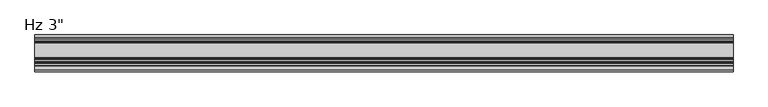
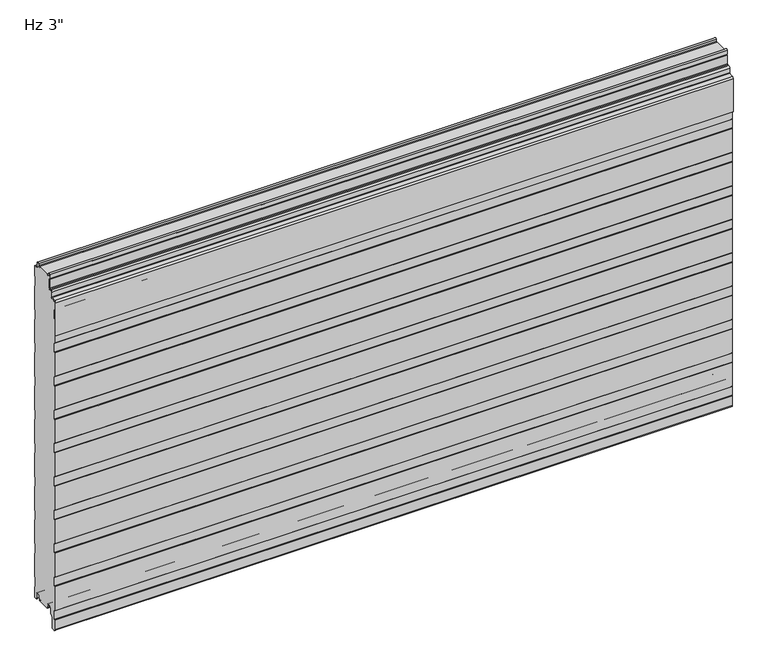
"""IFC4 building model written with IfcOpenShell, lengths in millimetres: plate geometry."""

from ifc_helpers import new_model, si_unit, point, frame, frame_2d, origin, place, context, project, spatial, polyline, circle_curve, trimmed, segment, composite_curve, outline, extrude, source, transform, mapped, element, save
from ifc_brep_helpers import plane_surface, cylinder_surface, revolved_surface, advanced_brep


def plate_fe4ee071(model_context):
    return source(origin(), model_context, "Body", "SolidModel", [
        advanced_brep(
        [(730.0, -55.1008679, 735.9534183), (730.0, -55.1008679, 754.6986183), (730.0, -56.6248679, 754.6986183), (730.0, -56.6248679, 735.9534183), (730.0, -58.1488679, 734.4294183), (730.0, -61.2476679, 734.4294183), (730.0, -64.7020679, 730.9750183), (730.0, -64.7020679, 719.762461), (730.0, -65.3976552, 719.0033606), (730.0, -74.9416507, 717.808533), (730.0, -77.724, 714.7721316), (730.0, -77.7360323, 639.2048183), (730.0, -76.2, 639.2048183), (730.0, -76.2, 714.7721316), (730.0, -74.8088254, 716.2903323), (730.0, -65.2648299, 717.4851599), (730.0, -63.1780679, 719.762461), (730.0, -63.1780679, 730.9750183), (730.0, -61.2476679, 732.9054183), (730.0, -58.1488679, 732.9054183), (-730.0, -55.1008679, 735.9534183), (-730.0, -58.1488679, 732.9054183), (-730.0, -61.2476679, 732.9054183), (-730.0, -63.1780679, 730.9750183), (-730.0, -63.1780679, 719.762461), (-730.0, -65.2648299, 717.4851599), (-730.0, -74.8088254, 716.2903323), (-730.0, -76.2, 714.7721316), (-730.0, -76.2, 639.2048183), (-730.0, -77.7360323, 639.2048183), (-730.0, -77.7360323, 714.7721316), (-730.0, -74.9416507, 717.808533), (-730.0, -65.3976552, 719.0033606), (-730.0, -64.7020679, 719.762461), (-730.0, -64.7020679, 730.9750183), (-730.0, -61.2476679, 734.4294183), (-730.0, -58.1488679, 734.4294183), (-730.0, -56.6248679, 735.9534183), (-730.0, -56.6248679, 754.6986183), (-730.0, -55.1008679, 754.6986183)],
        [
            (0, 1),
            (1, 2),
            (2, 3),
            (3, 4, circle_curve(frame((730.0, -58.1488679, 735.9534183), z_axis=(-1.0, 0.0, 0.0), x_axis=(0.0, 1.0, 0.0)), 1.524)),
            (4, 5),
            (5, 6, circle_curve(frame((730.0, -61.2476679, 730.9750183), z_axis=(1.0, 0.0, 0.0), x_axis=(0.0, 1.0, 0.0)), 3.4544)),
            (6, 7),
            (7, 8, circle_curve(frame((730.0, -65.4640679, 719.762461), z_axis=(-1.0, 0.0, 0.0), x_axis=(0.0, 1.0, 0.0)), 0.762)),
            (8, 9),
            (9, 10, circle_curve(frame((730.0, -74.676, 714.7721316), z_axis=(1.0, 0.0, 0.0), x_axis=(0.0, 1.0, 0.0)), 3.048)),
            (10, 11),
            (11, 12),
            (12, 13),
            (13, 14, circle_curve(frame((730.0, -74.676, 714.7721316), z_axis=(-1.0, 0.0, 0.0), x_axis=(0.0, 1.0, 0.0)), 1.524)),
            (14, 15),
            (15, 16, circle_curve(frame((730.0, -65.4640679, 719.762461), z_axis=(1.0, 0.0, 0.0), x_axis=(0.0, 1.0, 0.0)), 2.286)),
            (16, 17),
            (17, 18, circle_curve(frame((730.0, -61.2476679, 730.9750183), z_axis=(-1.0, 0.0, 0.0), x_axis=(0.0, 1.0, 0.0)), 1.9304)),
            (18, 19),
            (19, 0, circle_curve(frame((730.0, -58.1488679, 735.9534183), z_axis=(1.0, 0.0, 0.0), x_axis=(0.0, 1.0, 0.0)), 3.048)),
            (20, 21, circle_curve(frame((-730.0, -58.1488679, 735.9534183), z_axis=(-1.0, 0.0, 0.0), x_axis=(0.0, 1.0, 0.0)), 3.048)),
            (21, 22),
            (22, 23, circle_curve(frame((-730.0, -61.2476679, 730.9750183), z_axis=(1.0, 0.0, 0.0), x_axis=(0.0, 1.0, 0.0)), 1.9304)),
            (23, 24),
            (24, 25, circle_curve(frame((-730.0, -65.4640679, 719.762461), z_axis=(-1.0, 0.0, 0.0), x_axis=(0.0, 1.0, 0.0)), 2.286)),
            (25, 26),
            (26, 27, circle_curve(frame((-730.0, -74.676, 714.7721316), z_axis=(1.0, 0.0, 0.0), x_axis=(0.0, 1.0, 0.0)), 1.524)),
            (27, 28),
            (28, 29),
            (29, 30),
            (30, 31, circle_curve(frame((-730.0, -74.676, 714.7721316), z_axis=(-1.0, 0.0, 0.0), x_axis=(0.0, 1.0, 0.0)), 3.048)),
            (31, 32),
            (32, 33, circle_curve(frame((-730.0, -65.4640679, 719.762461), z_axis=(1.0, 0.0, 0.0), x_axis=(0.0, 1.0, 0.0)), 0.762)),
            (33, 34),
            (34, 35, circle_curve(frame((-730.0, -61.2476679, 730.9750183), z_axis=(-1.0, 0.0, 0.0), x_axis=(0.0, 1.0, 0.0)), 3.4544)),
            (35, 36),
            (36, 37, circle_curve(frame((-730.0, -58.1488679, 735.9534183), z_axis=(1.0, 0.0, 0.0), x_axis=(0.0, 1.0, 0.0)), 1.524)),
            (37, 38),
            (38, 39),
            (39, 20),
            (2, 38),
            (37, 3),
            (15, 25),
            (24, 16),
            (7, 33),
            (32, 8),
            (5, 35),
            (34, 6),
            (1, 39),
            (36, 4),
            (9, 31),
            (30, 10),
            (13, 27),
            (26, 14),
            (0, 20),
            (12, 28),
            (29, 11),
            (23, 17),
            (18, 22),
            (21, 19),
        ],
        [
            plane_surface(frame((730.0, -76.2, 754.6986183), z_axis=(1.0, 0.0, 0.0), x_axis=(0.0, 0.0, -1.0))),
            plane_surface(frame((-730.0, -76.2, 754.6986183), z_axis=(-1.0, 0.0, 0.0), x_axis=(0.0, 0.0, -1.0))),
            plane_surface(frame((730.0, -56.6248679, 735.9534183), z_axis=(0.0, -1.0, 0.0), x_axis=(-1.0, 0.0, 0.0))),
            cylinder_surface(frame((730.0, -65.4640679, 719.762461), z_axis=(1.0, 0.0, 0.0), x_axis=(0.0, 1.0, 0.0)), 2.286),
            revolved_surface(polyline([(-730.0, -64.7020679, 719.762461), (730.0, -64.7020679, 719.762461)]), (730.0, -65.4640679, 719.762461), (-1.0, 0.0, 0.0)),
            cylinder_surface(frame((730.0, -61.2476679, 730.9750183), z_axis=(1.0, 0.0, 0.0), x_axis=(0.0, 1.0, 0.0)), 3.4544),
            plane_surface(frame((730.0, -56.6248679, 754.6986183), z_axis=(0.0, 0.0, 1.0), x_axis=(-1.0, 0.0, 0.0))),
            revolved_surface(polyline([(-730.0, -56.6248679, 735.9534183), (730.0, -56.6248679, 735.9534183)]), (730.0, -58.1488679, 735.9534183), (-1.0, 0.0, 0.0)),
            cylinder_surface(frame((730.0, -74.676, 714.7721316), z_axis=(1.0, 0.0, 0.0), x_axis=(0.0, 1.0, 0.0)), 3.048),
            revolved_surface(polyline([(-730.0, -73.152, 714.7721316), (730.0, -73.152, 714.7721316)]), (730.0, -74.676, 714.7721316), (-1.0, 0.0, 0.0)),
            plane_surface(frame((730.0, -55.1008679, 754.6986183), z_axis=(0.0, 1.0, 0.0), x_axis=(-1.0, 0.0, 0.0))),
            plane_surface(frame((730.0, -65.2648299, 717.4851599), z_axis=(0.0, 0.12422187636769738, -0.9922544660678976), x_axis=(-1.0, 0.0, 0.0))),
            plane_surface(frame((730.0, -76.2, 714.7721316), z_axis=(0.0, 1.0, 0.0), x_axis=(-1.0, 0.0, 0.0))),
            plane_surface(frame((730.0, -74.9416507, 717.808533), z_axis=(0.0, -0.12422187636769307, 0.9922544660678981), x_axis=(-1.0, 0.0, 0.0))),
            plane_surface(frame((730.0, -61.2476679, 734.4294183), z_axis=(0.0, 0.0, 1.0), x_axis=(-1.0, 0.0, 0.0))),
            plane_surface(frame((730.0, -77.7360323, 639.2048183), z_axis=(0.0, -1.0, 0.0), x_axis=(-1.0, 0.0, 0.0))),
            plane_surface(frame((730.0, -76.2, 639.2048183), z_axis=(0.0, 0.0, -1.0), x_axis=(-1.0, 0.0, 0.0))),
            plane_surface(frame((730.0, -63.1780679, 730.9750183), z_axis=(0.0, 1.0, 0.0), x_axis=(-1.0, 0.0, 0.0))),
            plane_surface(frame((730.0, -58.1488679, 732.9054183), z_axis=(0.0, 0.0, -1.0), x_axis=(-1.0, 0.0, 0.0))),
            plane_surface(frame((730.0, -64.7020679, 719.762461), z_axis=(0.0, -1.0, 0.0), x_axis=(-1.0, 0.0, 0.0))),
            revolved_surface(polyline([(-730.0, -59.317267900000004, 730.9750183), (730.0, -59.317267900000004, 730.9750183)]), (730.0, -61.2476679, 730.9750183), (-1.0, 0.0, 0.0)),
            cylinder_surface(frame((730.0, -58.1488679, 735.9534183), z_axis=(1.0, 0.0, 0.0), x_axis=(0.0, 1.0, 0.0)), 3.048),
        ],
        [
            (0, [[1, 2, 3, 4, 5, 6, 7, 8, 9, 10, 11, 12, 13, 14, 15, 16, 17, 18, 19, 20]]),
            (1, [[21, 22, 23, 24, 25, 26, 27, 28, 29, 30, 31, 32, 33, 34, 35, 36, 37, 38, 39, 40]]),
            (2, [[41, -38, 42, -3]]),
            (3, [[43, -25, 44, -16]]),
            (4, [[45, -33, 46, -8]]),
            (5, [[47, -35, 48, -6]]),
            (6, [[49, -39, -41, -2]]),
            (7, [[-42, -37, 50, -4]]),
            (8, [[51, -31, 52, -10]]),
            (9, [[53, -27, 54, -14]]),
            (10, [[55, -40, -49, -1]]),
            (11, [[-54, -26, -43, -15]]),
            (12, [[56, -28, -53, -13]]),
            (13, [[-46, -32, -51, -9]]),
            (14, [[-50, -36, -47, -5]]),
            (15, [[-52, -30, 57, -11]]),
            (16, [[-57, -29, -56, -12]]),
            (17, [[-44, -24, 58, -17]]),
            (18, [[59, -22, 60, -19]]),
            (19, [[-48, -34, -45, -7]]),
            (20, [[-58, -23, -59, -18]]),
            (21, [[-60, -21, -55, -20]]),
        ],
    ),
        extrude(outline(composite_curve([segment(trimmed(circle_curve(frame_2d((-47.906538, 2.2313092)), 1.1999976), [point((-47.8760161, 1.0316999))], [point((-46.7065413, 2.2328239))], True, "CARTESIAN"), True, "CONTINUOUS"), segment(polyline([(-46.7065413, 2.2328239), (-46.7065413, 5.9912173), (-48.1050202, 5.9912173), (-48.1050202, 8.6903283)]), True, "CONTINUOUS"), segment(trimmed(circle_curve(frame_2d((-51.4550155, 8.6903283)), 3.3499953), [point((-48.1050202, 8.6903283))], [point((-51.4550155, 12.0403236))], True, "CARTESIAN"), True, "CONTINUOUS"), segment(polyline([(-51.4550155, 12.0403236), (-55.8550067, 12.0403236)]), True, "CONTINUOUS"), segment(trimmed(circle_curve(frame_2d((-55.8550067, 8.6903283)), 3.3499953), [point((-55.8550067, 12.0403236))], [point((-59.205002, 8.6903283))], True, "CARTESIAN"), True, "CONTINUOUS"), segment(polyline([(-59.205002, 8.6903283), (-59.205002, -3.1205608)]), True, "CONTINUOUS"), segment(trimmed(circle_curve(frame_2d((-60.9049966, -3.1205608)), 1.6999946), [point((-59.205002, -3.1205608))], [point((-59.7029189, -4.3226385))], False, "CARTESIAN"), True, "CONTINUOUS"), segment(polyline([(-59.7029189, -4.3226385), (-65.20499, -9.8247096), (-65.20499, -31.9198392)]), True, "CONTINUOUS"), segment(trimmed(circle_curve(frame_2d((-67.9049826, -31.9198392)), 2.6999926), [point((-65.20499, -31.9198392))], [point((-67.423592, -34.5765709))], False, "CARTESIAN"), True, "CONTINUOUS"), segment(polyline([(-67.423592, -34.5765709), (-72.4054129, -35.0125699)]), True, "CONTINUOUS"), segment(trimmed(circle_curve(frame_2d((-72.6294985, -32.4521176)), 2.5702393), [point((-72.4054129, -35.0125699))], [point((-75.1997378, -32.4521176))], False, "CARTESIAN"), True, "CONTINUOUS"), segment(polyline([(-75.1997378, -32.4521176), (-75.1997378, -10.4790962), (-73.9997693, -9.2791277), (-73.9997693, 10.4402849), (-75.2, 11.6405156), (-75.2, 65.7206473), (-73.9997693, 66.920878), (-73.9997693, 86.6402905), (-75.2, 87.8405213), (-75.2, 141.920653), (-73.9997693, 143.1208837), (-73.9997693, 162.8402962), (-75.2, 164.0405269), (-75.2, 218.1206587), (-73.9997693, 219.3208894), (-73.9997693, 239.0403019), (-75.2, 240.2405326), (-75.2, 294.3206644), (-73.9997693, 295.5208951), (-73.9997693, 315.2403076), (-75.2, 316.4405383), (-75.2, 370.5206701), (-73.9997693, 371.7209008), (-73.9997693, 391.4403133), (-75.2, 392.640544), (-75.2, 446.7206758), (-73.9997693, 447.9209065), (-73.9997693, 467.640319), (-75.2, 468.8405497), (-75.2, 522.9206815), (-73.9997693, 524.1209122), (-73.9997693, 543.8403247), (-75.2, 545.0405554), (-75.2, 599.1206872), (-73.9997693, 600.3209179), (-73.9997693, 620.0403304), (-75.2, 621.2405611), (-75.2, 675.3206929), (-73.9997693, 676.5209236), (-73.9997693, 696.2403361), (-75.2051411, 697.4457079), (-75.2051411, 713.5156233)]), True, "CONTINUOUS"), segment(trimmed(circle_curve(frame_2d((-73.2461194, 713.5156233)), 1.9590216), [point((-75.2051411, 713.5156233))], [point((-73.4178029, 715.4671075))], False, "CARTESIAN"), True, "CONTINUOUS"), segment(polyline([(-73.4178029, 715.4671075), (-64.9590902, 716.221161)]), True, "CONTINUOUS"), segment(trimmed(circle_curve(frame_2d((-65.2231732, 719.2396267)), 3.0299959), [point((-64.9590902, 716.221161))], [point((-62.1957873, 719.3653654))], True, "CARTESIAN"), True, "CONTINUOUS"), segment(polyline([(-62.1957873, 719.3653654), (-62.1957873, 729.4583308)]), True, "CONTINUOUS"), segment(trimmed(circle_curve(frame_2d((-61.2443786, 729.4583308)), 0.9514087), [point((-62.1957873, 729.4583308))], [point((-61.2443786, 730.4097394))], False, "CARTESIAN"), True, "CONTINUOUS"), segment(polyline([(-61.2443786, 730.4097394), (-58.1007233, 730.4097394)]), True, "CONTINUOUS"), segment(trimmed(circle_curve(frame_2d((-58.1007233, 734.4091924)), 3.9994529), [point((-58.1007233, 730.4097394))], [point((-54.1012703, 734.4091924))], True, "CARTESIAN"), True, "CONTINUOUS"), segment(polyline([(-54.1012703, 734.4091924), (-54.1012703, 755.5895515), (-56.0821181, 756.7334028), (-55.7268578, 765.706811)]), True, "CONTINUOUS"), segment(trimmed(circle_curve(frame_2d((-53.6266291, 765.6236622)), 2.1018739), [point((-55.7268578, 765.706811))], [point((-51.5262802, 765.7037148))], False, "CARTESIAN"), True, "CONTINUOUS"), segment(polyline([(-51.5262802, 765.7037148), (-51.2818653, 761.6977997)]), True, "CONTINUOUS"), segment(trimmed(circle_curve(frame_2d((-49.4434917, 761.8099653)), 1.8417922), [point((-51.2818653, 761.6977997))], [point((-49.4870527, 759.9686884))], True, "CARTESIAN"), True, "CONTINUOUS"), segment(polyline([(-49.4870527, 759.9686884), (-46.7025061, 759.9686884), (-46.7025061, 760.9686884), (-48.2900061, 760.9686884), (-47.2586945, 762.0), (-18.6184525, 762.0), (-17.5871409, 760.9686884), (-19.0015288, 760.9686884), (-19.0015288, 759.9686884), (-16.6743462, 759.9686884)]), True, "CONTINUOUS"), segment(trimmed(circle_curve(frame_2d((-16.6743462, 761.7186869)), 1.7499985), [point((-16.6743462, 759.9686884))], [point((-14.9256429, 761.6513685))], True, "CARTESIAN"), True, "CONTINUOUS"), segment(polyline([(-14.9256429, 761.6513685), (-14.7059822, 765.7921924)]), True, "CONTINUOUS"), segment(trimmed(circle_curve(frame_2d((-12.5552871, 765.6781032)), 2.153719), [point((-14.7059822, 765.7921924))], [point((-10.4046442, 765.7931719))], False, "CARTESIAN"), True, "CONTINUOUS"), segment(polyline([(-10.4046442, 765.7931719), (-9.9974365, 757.3016499)]), True, "CONTINUOUS"), segment(trimmed(circle_curve(frame_2d((-5.9867338, 757.4939817)), 4.0153117), [point((-9.9974365, 757.3016499))], [point((-6.0026007, 753.4787013))], True, "CARTESIAN"), True, "CONTINUOUS"), segment(polyline([(-6.0026007, 753.4787013), (-1.0, 753.4787013), (-1.0, 728.9790963), (-2.2002307, 727.5934634), (-2.2002307, 708.2182971), (-1.0, 706.8326641), (-1.0, 652.7792487), (-2.2002307, 651.3936158), (-2.2002307, 632.0184495), (-1.0, 630.6328165), (-1.0, 576.5794011), (-2.2002307, 575.1937682), (-2.2002307, 555.8186019), (-1.0, 554.4329689), (-1.0, 500.3795535), (-2.2002307, 498.9939206), (-2.2002307, 479.6187543), (-1.0, 478.2331213), (-1.0, 424.1797059), (-2.2002307, 422.794073), (-2.2002307, 403.4189067), (-1.0, 402.0332737), (-1.0, 347.9798583), (-2.2002307, 346.5942254), (-2.2002307, 327.2190591), (-1.0, 325.8334261), (-1.0, 271.7800107), (-2.2002307, 270.3943778), (-2.2002307, 251.0192115), (-1.0, 249.6335785), (-1.0, 195.5801631), (-2.2002307, 194.1945302), (-2.2002307, 174.8193639), (-1.0, 173.4337309), (-1.0, 119.3803155), (-2.2002307, 117.9946826), (-2.2002307, 98.6195163), (-1.0, 97.2338833), (-1.0, 43.1804679), (-2.2002307, 41.794835), (-2.2002307, 22.4196687), (-0.9999916, 21.034026), (-0.9999916, -3.4662506), (-5.2315389, -3.4662506)]), True, "CONTINUOUS"), segment(trimmed(circle_curve(frame_2d((-5.2315389, -1.6962564)), 1.7699942), [point((-5.2315389, -3.4662506))], [point((-7.0015331, -1.6962564))], False, "CARTESIAN"), True, "CONTINUOUS"), segment(polyline([(-7.0015331, -1.6962564), (-7.0015331, 8.7237222)]), True, "CONTINUOUS"), segment(trimmed(circle_curve(frame_2d((-10.301529, 8.7237222)), 3.2999959), [point((-7.0015331, 8.7237222))], [point((-10.301529, 12.023718))], True, "CARTESIAN"), True, "CONTINUOUS"), segment(polyline([(-10.301529, 12.023718), (-14.7015202, 12.023718)]), True, "CONTINUOUS"), segment(trimmed(circle_curve(frame_2d((-14.7015202, 8.7237223)), 3.2999957), [point((-14.7015202, 12.023718))], [point((-18.0015159, 8.7237223))], True, "CARTESIAN"), True, "CONTINUOUS"), segment(polyline([(-18.0015159, 8.7237223), (-18.0015159, 6.0315125), (-19.0015105, 6.0315125), (-19.0015105, 2.0313089)]), True, "CONTINUOUS"), segment(trimmed(circle_curve(frame_2d((-18.0015133, 2.0313089)), 0.9999972), [point((-19.0015105, 2.0313089))], [point((-18.0015192, 1.0313117))], True, "CARTESIAN"), True, "CONTINUOUS"), segment(polyline([(-18.0015192, 1.0313117), (-19.0328308, 0.0), (-46.8443162, 0.0), (-47.8760161, 1.0316999)]), True, "CONTINUOUS")], self_intersect=False)), frame((-730.0, 0.0, 0.0), z_axis=(1.0, 0.0, 0.0), x_axis=(0.0, 1.0, 0.0)), (0.0, 0.0, 1.0), 1460.0),
    ])


if __name__ == "__main__":
    model = new_model("IFC4")
    model_context = context("Model", 3, world=origin())
    ifc_project = project(units=[si_unit("LENGTHUNIT", "METRE", prefix="MILLI")], contexts=[model_context])
    site = spatial("IfcSite", under=ifc_project)
    building = spatial("IfcBuilding", under=site)
    placement = place(None, origin())
    plate_shape = plate_fe4ee071(model_context)
    element("IfcPlate", 1, ObjectType="KIP-30-Karrier-KP-R19-CP-Hz-SL_SL : Hz 3\"", at=placement, inside=building, context=model_context, shape_type="MappedRepresentation", body=[
        mapped(plate_shape, transform((0.0, 0.0, 0.0), x_axis=(1.0, 0.0, 0.0), y_axis=(0.0, 1.0, 0.0), z_axis=(0.0, 0.0, 1.0))),
    ])
    save(model, "model.ifc")
